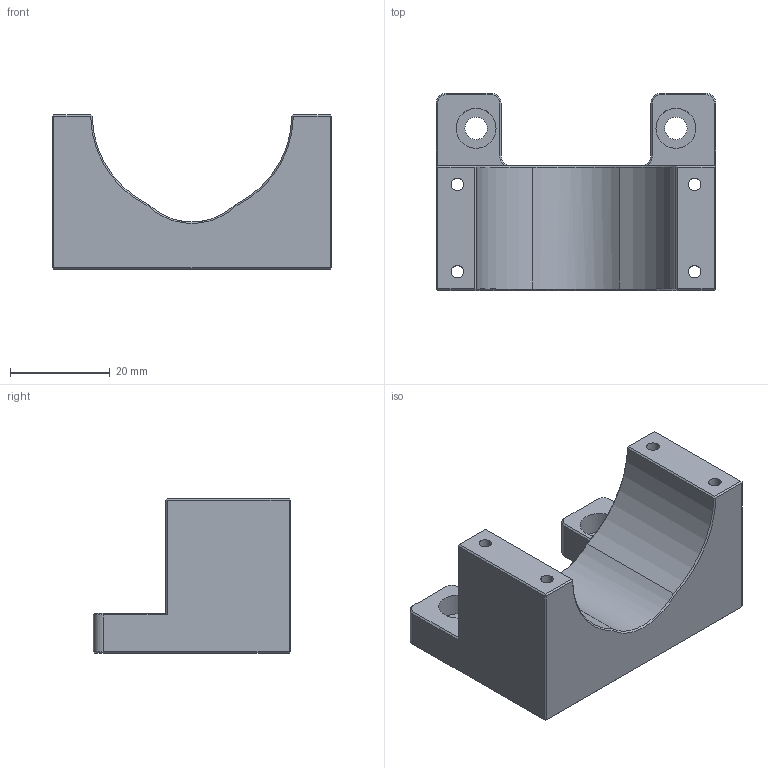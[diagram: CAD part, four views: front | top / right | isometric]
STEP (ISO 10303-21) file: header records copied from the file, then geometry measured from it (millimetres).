
FILE_DESCRIPTION (( 'STEP AP214' ), '1' );
FILE_NAME ('標厥噩芛狟.STEP', '2026-09-01T01:41:54', ( '' ), ( '' ), 'SwSTEP 2.0', 'SolidWorks 2024', '' );
FILE_SCHEMA (( 'AUTOMOTIVE_DESIGN' ));
Length unit declared in the file: millimetre
Products named in the file (1): 夹持镜头下
Bounding box: 56 x 39.5 x 31 mm (x, y, z)
Volume: 29028.3 mm3; surface area: 9384.6 mm2
Topology: 1 solids, 1 shells, 95 faces, 215 edges, 124 vertices
Faces by surface type: plane 51, cylinder 25, cone 19
Entity records: 2652 total; most frequent: DIRECTION 471, CARTESIAN_POINT 457, ORIENTED_EDGE 430, EDGE_CURVE 215, AXIS2_PLACEMENT_3D 166, LINE 139, VECTOR 139, VERTEX_POINT 124
